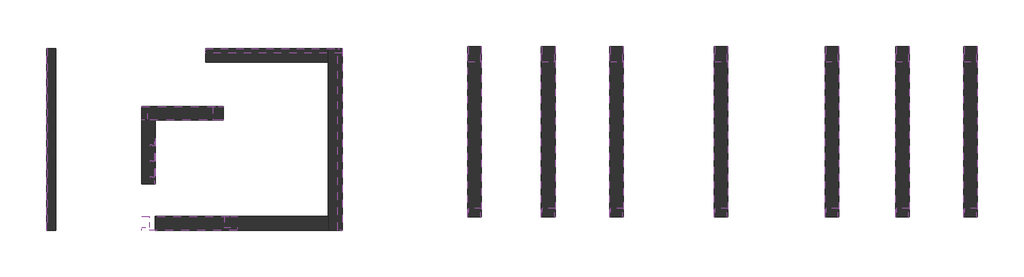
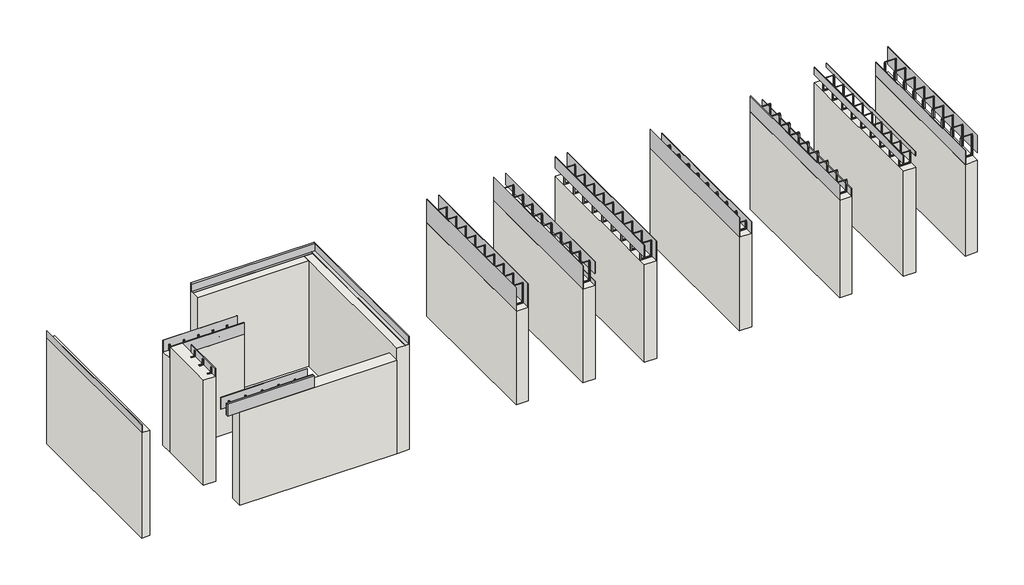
# One storey: 13 proxies, 13 walls.
"""IFC4 building model written with IfcOpenShell, lengths in millimetres."""

from ifc_helpers import new_model, si_unit, frame, origin, origin_with_axes, place, context, project, spatial, polyline, outline, extrude, faceted_brep, transform, mapped, element, save
from components import generic_models_a81ae250, generic_models_2878a8e8, generic_models_3c8a262e, generic_models_a551cf04, generic_models_7b471858, generic_models_2febcc6a, generic_models_4c34a69a, proxy_20_63aa7d4d, proxy_25_30_84c061ed, proxy_30_30_b2d43016

model = new_model("IFC4")

# Units and contexts
model_context = context("Model", 3, world=origin())
ifc_project = project(units=[si_unit("LENGTHUNIT", "METRE", prefix="MILLI")], contexts=[model_context])

# Site, building, storey
site = spatial("IfcSite", under=ifc_project)
building = spatial("IfcBuilding", under=site)
storey = spatial("IfcBuildingStorey", under=building, Name="Földszint", Elevation=0.0)

# Proxies
placement = place(None, origin())
generic_models_shape = generic_models_a81ae250(model_context)
element("IfcBuildingElementProxy", 1, Name="Betobeam ABE : -", ObjectType="Betobeam ABE : -", at=placement, inside=storey, context=model_context, shape_type="MappedRepresentation", body=[
    mapped(generic_models_shape, transform((14341.0965873, 2691.5168566, 2400.0), x_axis=(0.0, 1.0, 0.0), y_axis=(-1.0, 0.0, 0.0), z_axis=(0.0, 0.0, 1.0))),
])
generic_models_2_shape = generic_models_2878a8e8(model_context)
element("IfcBuildingElementProxy", 2, Name="Betobeam ABM : -", ObjectType="Betobeam ABM : -", at=placement, inside=storey, context=model_context, shape_type="MappedRepresentation", body=[
    mapped(generic_models_2_shape, transform((16778.2841356, 2691.5168566, 2500.0), x_axis=(0.0, 1.0, 0.0), y_axis=(-1.0, 0.0, 0.0), z_axis=(0.0, 0.0, 1.0))),
])
generic_models_3_shape = generic_models_3c8a262e(model_context)
element("IfcBuildingElementProxy", 3, Name="Betobeam AT : -", ObjectType="Betobeam AT : -", at=placement, inside=storey, context=model_context, shape_type="MappedRepresentation", body=[
    mapped(generic_models_3_shape, transform((11741.0965873, 2691.5168566, 2500.0), x_axis=(0.0, 1.0, 0.0), y_axis=(-1.0, 0.0, 0.0), z_axis=(0.0, 0.0, 1.0))),
])
generic_models_4_shape = generic_models_a551cf04(model_context)
element("IfcBuildingElementProxy", 4, Name="Betobeam FB : -", ObjectType="Betobeam FB : -", at=placement, inside=storey, context=model_context, shape_type="MappedRepresentation", body=[
    mapped(generic_models_4_shape, transform((18328.2841356, 2691.5168566, 2700.0), x_axis=(0.0, 1.0, 0.0), y_axis=(-1.0, 0.0, 0.0), z_axis=(0.0, 0.0, 1.0))),
])
generic_models_5_shape = generic_models_7b471858(model_context)
element("IfcBuildingElementProxy", 5, Name="Betobeam MG : -", ObjectType="Betobeam MG : -", at=placement, inside=storey, context=model_context, shape_type="MappedRepresentation", body=[
    mapped(generic_models_5_shape, transform((8921.0965873, 2691.5168566, 2400.0), x_axis=(0.0, 1.0, 0.0), y_axis=(-1.0, 0.0, 0.0), z_axis=(0.0, 0.0, 1.0))),
])
generic_models_6_shape = generic_models_2febcc6a(model_context)
element("IfcBuildingElementProxy", 6, Name="Betobeam PG : -", ObjectType="Betobeam PG : -", at=placement, inside=storey, context=model_context, shape_type="MappedRepresentation", body=[
    mapped(generic_models_6_shape, transform((10541.0965873, 2691.5168566, 2400.0), x_axis=(0.0, 1.0, 0.0), y_axis=(-1.0, 0.0, 0.0), z_axis=(0.0, 0.0, 1.0))),
])
generic_models_7_shape = generic_models_4c34a69a(model_context)
element("IfcBuildingElementProxy", 7, Name="Betobeam SV : -", ObjectType="Betobeam SV : -", at=placement, inside=storey, context=model_context, shape_type="MappedRepresentation", body=[
    mapped(generic_models_7_shape, transform((19828.2841356, 2691.5168566, 2350.0), x_axis=(0.0, 1.0, 0.0), y_axis=(-1.0, 0.0, 0.0), z_axis=(0.0, 0.0, 1.0))),
])
element("IfcBuildingElementProxy", 8, Name="Betobord L : 20", ObjectType="Betobord L : 20", at=placement, inside=storey, context=model_context, shape_type="SweptSolid", body=[
    extrude(outline(polyline([(2700.0, 5757.5063613), (2700.0, 5857.5063613), (2900.0, 5857.5063613), (2900.0, 5847.5063613), (2710.0, 5847.5063613), (2710.0, 5757.5063613), (2700.0, 5757.5063613)])), frame((0.0, 2395.0381679, 0.0), z_axis=(0.0, 1.0, 0.0), x_axis=(0.0, 0.0, 1.0)), (0.0, 0.0, 1.0), 4000.0),
])
proxy_20_shape = proxy_20_63aa7d4d(model_context)
element("IfcBuildingElementProxy", 9, Name="Betobord LS : 20", ObjectType="Betobord LS : 20", at=placement, inside=storey, context=model_context, shape_type="MappedRepresentation", body=[
    mapped(proxy_20_shape, transform((1746.1620032, 3418.1629594, 2700.0), x_axis=(0.0, 1.0, 0.0), y_axis=(-1.0, 0.0, 0.0), z_axis=(0.0, 0.0, 1.0))),
])
proxy_25_30_shape = proxy_25_30_84c061ed(model_context)
element("IfcBuildingElementProxy", 10, Name="Thermoring : 25/30", ObjectType="Thermoring : 25/30", at=placement, inside=storey, context=model_context, shape_type="MappedRepresentation", body=[
    mapped(proxy_25_30_shape, transform((1446.1620032, 2695.0381679, 2400.0), x_axis=(1.0, 0.0, 0.0), y_axis=(0.0, 1.0, 0.0), z_axis=(0.0, 0.0, 1.0))),
])
element("IfcBuildingElementProxy", 11, Name="Betobord : 30", ObjectType="Betobord : 30", at=placement, inside=storey, context=model_context, shape_type="SweptSolid", body=[
    extrude(outline(polyline([(-632.4936387, 2395.0381679), (-642.4936387, 2395.0381679), (-642.4936387, 6395.0381679), (-632.4936387, 6395.0381679), (-632.4936387, 2395.0381679)])), frame((0.0, 0.0, 2600.0), z_axis=(0.0, 0.0, 1.0), x_axis=(1.0, 0.0, 0.0)), (0.0, 0.0, 1.0), 300.0),
])
proxy_30_30_shape = proxy_30_30_b2d43016(model_context)
element("IfcBuildingElementProxy", 12, Name="Betoring : 30/30", ObjectType="Betoring : 30/30", at=placement, inside=storey, context=model_context, shape_type="MappedRepresentation", body=[
    mapped(proxy_30_30_shape, transform((1446.1620032, 4818.1629594, 2400.0), x_axis=(1.0, 0.0, 0.0), y_axis=(0.0, 1.0, 0.0), z_axis=(0.0, 0.0, 1.0))),
])
element("IfcBuildingElementProxy", 13, Name="Thermobord : 50x200", ObjectType="Thermobord : 50x200", at=placement, inside=storey, context=model_context, shape_type="SolidModel", body=[
    faceted_brep([(2857.5063613, 6295.0381679, 2700.0), (2857.5063613, 6295.0381679, 2710.0), (2857.5063613, 6345.0381679, 2710.0), (2857.5063613, 6395.0381679, 2710.0), (2857.5063613, 6395.0381679, 2700.0), (5857.5063613, 6295.0381679, 2700.0), (5857.5063613, 6395.0381679, 2700.0), (5857.5063613, 6395.0381679, 2710.0), (5857.5063613, 6345.0381679, 2710.0), (5857.5063613, 6295.0381679, 2710.0)], [[[0, 1, 2, 3, 4]], [[5, 6, 7, 8, 9]], [[0, 4, 6, 5]], [[4, 3, 7, 6]], [[1, 0, 5, 9]], [[3, 2, 1, 9, 8, 7]]]),
    extrude(outline(polyline([(2857.5063613, 6345.0381679), (2857.5063613, 6395.0381679), (5857.5063613, 6395.0381679), (5857.5063613, 6345.0381679), (2857.5063613, 6345.0381679)])), frame((0.0, 0.0, 2710.0), z_axis=(0.0, 0.0, 1.0), x_axis=(1.0, 0.0, 0.0)), (0.0, 0.0, 1.0), 190.0),
])

# Walls
element("IfcWall", 14, ObjectType="Masonry 300mm", at=placement, inside=storey, context=model_context, shape_type="Brep", body=[
    faceted_brep([(5557.5063613, 6395.0381679, 0.0), (5557.5063613, 6095.0381679, 0.0), (5557.5063613, 2695.0381679, 0.0), (5557.5063613, 2395.0381679, 0.0), (5557.5063613, 2395.0381679, 2400.0), (5557.5063613, 2395.0381679, 2700.0), (5557.5063613, 6095.0381679, 2700.0), (5557.5063613, 6395.0381679, 2700.0), (5857.5063613, 6395.0381679, 0.0), (5857.5063613, 6395.0381679, 2700.0), (5857.5063613, 2395.0381679, 2700.0), (5857.5063613, 2395.0381679, 0.0)], [[[0, 1, 2, 3, 4, 5, 6, 7]], [[8, 9, 10, 11]], [[3, 2, 1, 0, 8, 11]], [[7, 6, 5, 10, 9]], [[0, 7, 9, 8]], [[5, 4, 3, 11, 10]]]),
])
element("IfcWall", 15, ObjectType="Masonry 300mm", at=placement, inside=storey, context=model_context, shape_type="Brep", body=[
    faceted_brep([(1446.1620032, 4818.1629594, 0.0), (1746.1620032, 4818.1629594, 0.0), (3246.1620032, 4818.1629594, 0.0), (3246.1620032, 4818.1629594, 2400.0), (1446.1620032, 4818.1629594, 2400.0), (1446.1620032, 5118.1629594, 0.0), (1446.1620032, 5118.1629594, 2400.0), (3246.1620032, 5118.1629594, 2400.0), (3246.1620032, 5118.1629594, 0.0)], [[[0, 1, 2, 3, 4]], [[5, 6, 7, 8]], [[2, 1, 0, 5, 8]], [[3, 2, 8, 7]], [[4, 3, 7, 6]], [[0, 4, 6, 5]]]),
])
element("IfcWall", 16, ObjectType="Masonry 300mm", at=placement, inside=storey, context=model_context, shape_type="SweptSolid", body=[
    extrude(outline(polyline([(2857.5063613, 6395.0381679), (5557.5063613, 6395.0381679), (5557.5063613, 6095.0381679), (2857.5063613, 6095.0381679), (2857.5063613, 6395.0381679)])), origin_with_axes(), (0.0, 0.0, 1.0), 2700.0),
])
element("IfcWall", 17, ObjectType="Masonry 300mm", at=placement, inside=storey, context=model_context, shape_type="SweptSolid", body=[
    extrude(outline(polyline([(5557.5063613, 2395.0381679), (1746.1620032, 2395.0381679), (1746.1620032, 2695.0381679), (5557.5063613, 2695.0381679), (5557.5063613, 2395.0381679)])), origin_with_axes(), (0.0, 0.0, 1.0), 2400.0),
])
element("IfcWall", 18, ObjectType="Masonry 300mm", at=placement, inside=storey, context=model_context, shape_type="Brep", body=[
    faceted_brep([(1446.1620032, 4818.1629594, 0.0), (1446.1620032, 3418.1629594, 0.0), (1446.1620032, 3418.1629594, 2700.0), (1446.1620032, 4818.1629594, 2700.0), (1446.1620032, 4818.1629594, 2400.0), (1746.1620032, 4818.1629594, 0.0), (1746.1620032, 4818.1629594, 2700.0), (1746.1620032, 3418.1629594, 2700.0), (1746.1620032, 3418.1629594, 0.0)], [[[0, 1, 2, 3, 4]], [[5, 6, 7, 8]], [[1, 0, 5, 8]], [[2, 1, 8, 7]], [[3, 2, 7, 6]], [[0, 4, 3, 6, 5]]]),
])
element("IfcWall", 19, ObjectType="Masonry 300mm", at=placement, inside=storey, context=model_context, shape_type="SweptSolid", body=[
    extrude(outline(polyline([(8921.0965873, 6441.5168566), (8921.0965873, 2691.5168566), (8621.0965873, 2691.5168566), (8621.0965873, 6441.5168566), (8921.0965873, 6441.5168566)])), origin_with_axes(), (0.0, 0.0, 1.0), 2400.0),
])
element("IfcWall", 20, ObjectType="Masonry 300mm", at=placement, inside=storey, context=model_context, shape_type="SweptSolid", body=[
    extrude(outline(polyline([(10541.0965873, 6441.5168566), (10541.0965873, 2691.5168566), (10241.0965873, 2691.5168566), (10241.0965873, 6441.5168566), (10541.0965873, 6441.5168566)])), origin_with_axes(), (0.0, 0.0, 1.0), 2400.0),
])
element("IfcWall", 21, ObjectType="Masonry 300mm", at=placement, inside=storey, context=model_context, shape_type="SweptSolid", body=[
    extrude(outline(polyline([(12041.0965873, 6441.5168566), (12041.0965873, 2691.5168566), (11741.0965873, 2691.5168566), (11741.0965873, 6441.5168566), (12041.0965873, 6441.5168566)])), origin_with_axes(), (0.0, 0.0, 1.0), 2500.0),
])
element("IfcWall", 22, ObjectType="Masonry 300mm", at=placement, inside=storey, context=model_context, shape_type="SweptSolid", body=[
    extrude(outline(polyline([(14341.0965873, 6441.5168566), (14341.0965873, 2691.5168566), (14041.0965873, 2691.5168566), (14041.0965873, 6441.5168566), (14341.0965873, 6441.5168566)])), origin_with_axes(), (0.0, 0.0, 1.0), 2400.0),
])
element("IfcWall", 23, ObjectType="Masonry 300mm", at=placement, inside=storey, context=model_context, shape_type="SweptSolid", body=[
    extrude(outline(polyline([(16778.2841356, 6441.5168566), (16778.2841356, 2691.5168566), (16478.2841356, 2691.5168566), (16478.2841356, 6441.5168566), (16778.2841356, 6441.5168566)])), origin_with_axes(), (0.0, 0.0, 1.0), 2500.0),
])
element("IfcWall", 24, ObjectType="Masonry 300mm", at=placement, inside=storey, context=model_context, shape_type="SweptSolid", body=[
    extrude(outline(polyline([(18328.2841356, 6441.5168566), (18328.2841356, 2691.5168566), (18028.2841356, 2691.5168566), (18028.2841356, 6441.5168566), (18328.2841356, 6441.5168566)])), origin_with_axes(), (0.0, 0.0, 1.0), 2700.0),
])
element("IfcWall", 25, ObjectType="Masonry 300mm", at=placement, inside=storey, context=model_context, shape_type="SweptSolid", body=[
    extrude(outline(polyline([(19828.2841356, 6441.5168566), (19828.2841356, 2691.5168566), (19528.2841356, 2691.5168566), (19528.2841356, 6441.5168566), (19828.2841356, 6441.5168566)])), origin_with_axes(), (0.0, 0.0, 1.0), 2350.0),
])
element("IfcWall", 26, ObjectType="RC 200mm", at=placement, inside=storey, context=model_context, shape_type="SweptSolid", body=[
    extrude(outline(polyline([(-642.4936387, 2395.0381679), (-642.4936387, 6395.0381679), (-442.4936387, 6395.0381679), (-442.4936387, 2395.0381679), (-642.4936387, 2395.0381679)])), origin_with_axes(), (0.0, 0.0, 1.0), 2700.0),
])

save(model, "model.ifc")
